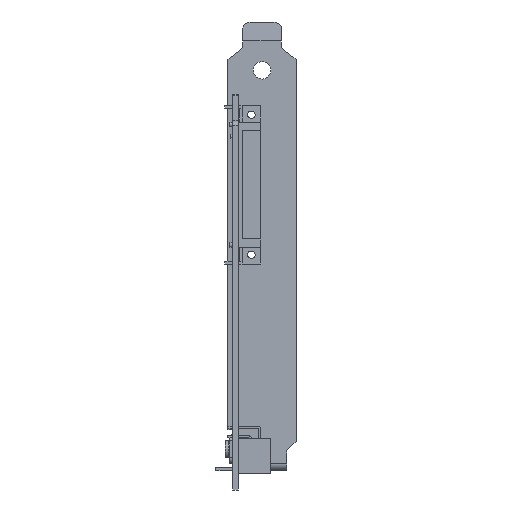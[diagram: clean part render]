
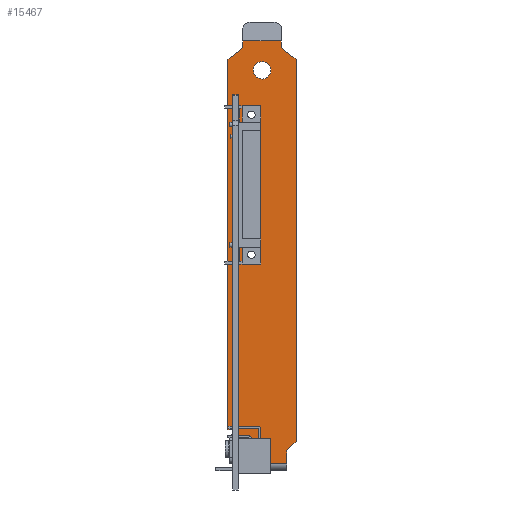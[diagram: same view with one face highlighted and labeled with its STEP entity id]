
A CAD part, front view. The second image highlights one B-rep face of the part: STEP entity #15467.
In plain terms, the highlighted planar face has unit normal (0, -1, 0).
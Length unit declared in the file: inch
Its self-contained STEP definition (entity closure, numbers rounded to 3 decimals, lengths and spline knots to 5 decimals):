
#3197=DIRECTION('',(0.,0.,1.));
#3198=VECTOR('',#3197,0.30948);
#3199=CARTESIAN_POINT('',(0.00493,0.325,
-3.72607));
#3200=LINE('',#3199,#3198);
#3201=CARTESIAN_POINT('',(-0.012,0.325,-3.3926));
#3202=DIRECTION('',(0.,1.,0.));
#3203=DIRECTION('',(0.,0.,1.));
#3204=AXIS2_PLACEMENT_3D('',#3201,#3202,#3203);
#3206=DIRECTION('',(-1.,0.,0.));
#3207=VECTOR('',#3206,0.036);
#3208=CARTESIAN_POINT('',(-0.012,0.325,-3.3632));
#3209=LINE('',#3208,#3207);
#3210=DIRECTION('',(0.,0.,-1.));
#3211=VECTOR('',#3210,3.9261);
#3212=CARTESIAN_POINT('',(-0.048,0.325,0.5629));
#3213=LINE('',#3212,#3211);
#3214=DIRECTION('',(-0.788,0.,-0.616));
#3215=VECTOR('',#3214,0.1967);
#3216=CARTESIAN_POINT('',(0.107,0.325,0.684));
#3217=LINE('',#3216,#3215);
#3218=DIRECTION('',(0.,0.,-1.));
#3219=VECTOR('',#3218,0.074);
#3220=CARTESIAN_POINT('',(0.107,0.325,0.758));
#3221=LINE('',#3220,#3219);
#3222=DIRECTION('',(1.,0.,0.));
#3223=VECTOR('',#3222,0.412);
#3224=CARTESIAN_POINT('',(0.107,0.325,0.758));
#3225=LINE('',#3224,#3223);
#3226=DIRECTION('',(0.,0.,-1.));
#3227=VECTOR('',#3226,0.074);
#3228=CARTESIAN_POINT('',(0.519,0.325,0.758));
#3229=LINE('',#3228,#3227);
#3230=DIRECTION('',(-0.788,0.,0.616));
#3231=VECTOR('',#3230,0.1967);
#3232=CARTESIAN_POINT('',(0.674,0.325,0.5629));
#3233=LINE('',#3232,#3231);
#3234=DIRECTION('',(0.707,0.,0.707));
#3235=VECTOR('',#3234,0.14142);
#3236=CARTESIAN_POINT('',(0.574,0.325,-3.589));
#3237=LINE('',#3236,#3235);
#3238=DIRECTION('',(0.,0.,1.));
#3239=VECTOR('',#3238,0.137);
#3240=CARTESIAN_POINT('',(0.574,0.325,-3.726));
#3241=LINE('',#3240,#3239);
#3242=DIRECTION('',(-1.,0.,0.));
#3243=VECTOR('',#3242,0.56907);
#3244=CARTESIAN_POINT('',(0.574,0.325,-3.726));
#3245=LINE('',#3244,#3243);
#3246=CARTESIAN_POINT('',(0.313,0.325,0.447));
#3247=DIRECTION('',(0.,1.,0.));
#3248=DIRECTION('',(0.,0.,1.));
#3249=AXIS2_PLACEMENT_3D('',#3246,#3247,#3248);
#3251=CARTESIAN_POINT('',(0.313,0.325,0.447));
#3252=DIRECTION('',(0.,1.,0.));
#3253=DIRECTION('',(0.,0.,-1.));
#3254=AXIS2_PLACEMENT_3D('',#3251,#3252,#3253);
#3384=DIRECTION('',(0.,0.,1.));
#3385=VECTOR('',#3384,4.0519);
#3386=CARTESIAN_POINT('',(0.674,0.325,-3.489));
#3387=LINE('',#3386,#3385);
#3722=DIRECTION('',(0.,0.,1.));
#3723=VECTOR('',#3722,1.32677);
#3724=CARTESIAN_POINT('',(0.062,0.325,-1.4302));
#3725=LINE('',#3724,#3723);
#3726=DIRECTION('',(1.,0.,0.));
#3727=VECTOR('',#3726,0.03937);
#3728=CARTESIAN_POINT('',(0.062,0.325,-0.10343));
#3729=LINE('',#3728,#3727);
#3762=DIRECTION('',(0.,0.,1.));
#3763=VECTOR('',#3762,0.17717);
#3764=CARTESIAN_POINT('',(0.10137,0.325,-0.10343));
#3765=LINE('',#3764,#3763);
#3782=DIRECTION('',(-1.,0.,0.));
#3783=VECTOR('',#3782,0.19685);
#3784=CARTESIAN_POINT('',(0.29822,0.325,0.07374));
#3785=LINE('',#3784,#3783);
#3798=DIRECTION('',(0.,0.,1.));
#3799=VECTOR('',#3798,1.6811);
#3800=CARTESIAN_POINT('',(0.29822,0.325,-1.60736));
#3801=LINE('',#3800,#3799);
#3846=DIRECTION('',(-1.,0.,0.));
#3847=VECTOR('',#3846,0.19685);
#3848=CARTESIAN_POINT('',(0.29822,0.325,-1.60736));
#3849=LINE('',#3848,#3847);
#3866=DIRECTION('',(0.,0.,-1.));
#3867=VECTOR('',#3866,0.17717);
#3868=CARTESIAN_POINT('',(0.10137,0.325,-1.4302));
#3869=LINE('',#3868,#3867);
#3886=DIRECTION('',(1.,0.,0.));
#3887=VECTOR('',#3886,0.03937);
#3888=CARTESIAN_POINT('',(0.062,0.325,-1.4302));
#3889=LINE('',#3888,#3887);
#12453=CARTESIAN_POINT('',(0.574,0.325,-3.726));
#12455=VERTEX_POINT('',#12453);
#12457=CARTESIAN_POINT('',(0.574,0.325,-3.589));
#12458=VERTEX_POINT('',#12457);
#12459=CARTESIAN_POINT('',(0.674,0.325,-3.489));
#12460=VERTEX_POINT('',#12459);
#12461=CARTESIAN_POINT('',(0.107,0.325,0.684));
#12462=CARTESIAN_POINT('',(-0.048,0.325,0.5629));
#12463=VERTEX_POINT('',#12461);
#12464=VERTEX_POINT('',#12462);
#12465=CARTESIAN_POINT('',(0.674,0.325,0.5629));
#12466=CARTESIAN_POINT('',(0.519,0.325,0.684));
#12467=VERTEX_POINT('',#12465);
#12468=VERTEX_POINT('',#12466);
#12573=CARTESIAN_POINT('',(0.313,0.325,0.5405));
#12574=CARTESIAN_POINT('',(0.313,0.325,0.3535));
#12575=VERTEX_POINT('',#12573);
#12576=VERTEX_POINT('',#12574);
#12577=CARTESIAN_POINT('',(0.107,0.325,0.758));
#12578=VERTEX_POINT('',#12577);
#12579=CARTESIAN_POINT('',(0.519,0.325,0.758));
#12580=VERTEX_POINT('',#12579);
#12609=CARTESIAN_POINT('',(-0.012,0.325,-3.3632));
#12610=CARTESIAN_POINT('',(-0.048,0.325,-3.3632));
#12611=VERTEX_POINT('',#12609);
#12612=VERTEX_POINT('',#12610);
#12625=CARTESIAN_POINT('',(0.005,0.325,-3.41659));
#12626=VERTEX_POINT('',#12625);
#12630=CARTESIAN_POINT('',(0.00493,0.325,
-3.72607));
#12631=VERTEX_POINT('',#12630);
#12720=CARTESIAN_POINT('',(0.062,0.325,-1.4302));
#12721=CARTESIAN_POINT('',(0.062,0.325,-0.10343));
#12722=VERTEX_POINT('',#12720);
#12723=VERTEX_POINT('',#12721);
#12724=CARTESIAN_POINT('',(0.29822,0.325,-1.60736));
#12725=CARTESIAN_POINT('',(0.29822,0.325,0.07374));
#12726=VERTEX_POINT('',#12724);
#12727=VERTEX_POINT('',#12725);
#12752=CARTESIAN_POINT('',(0.10137,0.325,0.07374));
#12753=VERTEX_POINT('',#12752);
#12754=CARTESIAN_POINT('',(0.10137,0.325,-0.10343));
#12755=VERTEX_POINT('',#12754);
#12756=CARTESIAN_POINT('',(0.10137,0.325,-1.4302));
#12757=VERTEX_POINT('',#12756);
#12758=CARTESIAN_POINT('',(0.10137,0.325,-1.60736));
#12759=VERTEX_POINT('',#12758);
#15413=CARTESIAN_POINT('',(0.674,0.325,-3.726));
#15414=DIRECTION('',(0.,1.,0.));
#15415=DIRECTION('',(0.,0.,1.));
#15416=AXIS2_PLACEMENT_3D('',#15413,#15414,#15415);
#15417=PLANE('',#15416);
#15418=ORIENTED_EDGE('',*,*,#15139,.T.);
#15419=ORIENTED_EDGE('',*,*,#15194,.F.);
#15421=ORIENTED_EDGE('',*,*,#15420,.T.);
#15423=ORIENTED_EDGE('',*,*,#15422,.F.);
#15425=ORIENTED_EDGE('',*,*,#15424,.F.);
#15427=ORIENTED_EDGE('',*,*,#15426,.F.);
#15429=ORIENTED_EDGE('',*,*,#15428,.T.);
#15431=ORIENTED_EDGE('',*,*,#15430,.T.);
#15433=ORIENTED_EDGE('',*,*,#15432,.F.);
#15435=ORIENTED_EDGE('',*,*,#15434,.F.);
#15437=ORIENTED_EDGE('',*,*,#15436,.F.);
#15439=ORIENTED_EDGE('',*,*,#15438,.F.);
#15440=ORIENTED_EDGE('',*,*,#15400,.T.);
#15441=EDGE_LOOP('',(#15418,#15419,#15421,#15423,#15425,#15427,#15429,#15431,
#15433,#15435,#15437,#15439,#15440));
#15442=FACE_OUTER_BOUND('',#15441,.F.);
#15444=ORIENTED_EDGE('',*,*,#15443,.F.);
#15446=ORIENTED_EDGE('',*,*,#15445,.F.);
#15447=EDGE_LOOP('',(#15444,#15446));
#15448=FACE_BOUND('',#15447,.F.);
#15450=ORIENTED_EDGE('',*,*,#15449,.F.);
#15452=ORIENTED_EDGE('',*,*,#15451,.T.);
#15454=ORIENTED_EDGE('',*,*,#15453,.T.);
#15456=ORIENTED_EDGE('',*,*,#15455,.F.);
#15458=ORIENTED_EDGE('',*,*,#15457,.T.);
#15460=ORIENTED_EDGE('',*,*,#15459,.T.);
#15462=ORIENTED_EDGE('',*,*,#15461,.F.);
#15464=ORIENTED_EDGE('',*,*,#15463,.F.);
#15465=EDGE_LOOP('',(#15450,#15452,#15454,#15456,#15458,#15460,#15462,#15464));
#15466=FACE_BOUND('',#15465,.F.);
#15467=ADVANCED_FACE('',(#15442,#15448,#15466),#15417,.F.);
#3205=CIRCLE('',#3204,0.0294);
#3250=CIRCLE('',#3249,0.0935);
#3255=CIRCLE('',#3254,0.0935);
#15139=EDGE_CURVE('',#12631,#12626,#3200,.T.);
#15194=EDGE_CURVE('',#12611,#12626,#3205,.T.);
#15400=EDGE_CURVE('',#12455,#12631,#3245,.T.);
#15420=EDGE_CURVE('',#12611,#12612,#3209,.T.);
#15422=EDGE_CURVE('',#12464,#12612,#3213,.T.);
#15424=EDGE_CURVE('',#12463,#12464,#3217,.T.);
#15426=EDGE_CURVE('',#12578,#12463,#3221,.T.);
#15428=EDGE_CURVE('',#12578,#12580,#3225,.T.);
#15430=EDGE_CURVE('',#12580,#12468,#3229,.T.);
#15432=EDGE_CURVE('',#12467,#12468,#3233,.T.);
#15434=EDGE_CURVE('',#12460,#12467,#3387,.T.);
#15436=EDGE_CURVE('',#12458,#12460,#3237,.T.);
#15438=EDGE_CURVE('',#12455,#12458,#3241,.T.);
#15443=EDGE_CURVE('',#12575,#12576,#3250,.T.);
#15445=EDGE_CURVE('',#12576,#12575,#3255,.T.);
#15449=EDGE_CURVE('',#12722,#12723,#3725,.T.);
#15451=EDGE_CURVE('',#12722,#12757,#3889,.T.);
#15453=EDGE_CURVE('',#12757,#12759,#3869,.T.);
#15455=EDGE_CURVE('',#12726,#12759,#3849,.T.);
#15457=EDGE_CURVE('',#12726,#12727,#3801,.T.);
#15459=EDGE_CURVE('',#12727,#12753,#3785,.T.);
#15461=EDGE_CURVE('',#12755,#12753,#3765,.T.);
#15463=EDGE_CURVE('',#12723,#12755,#3729,.T.);
